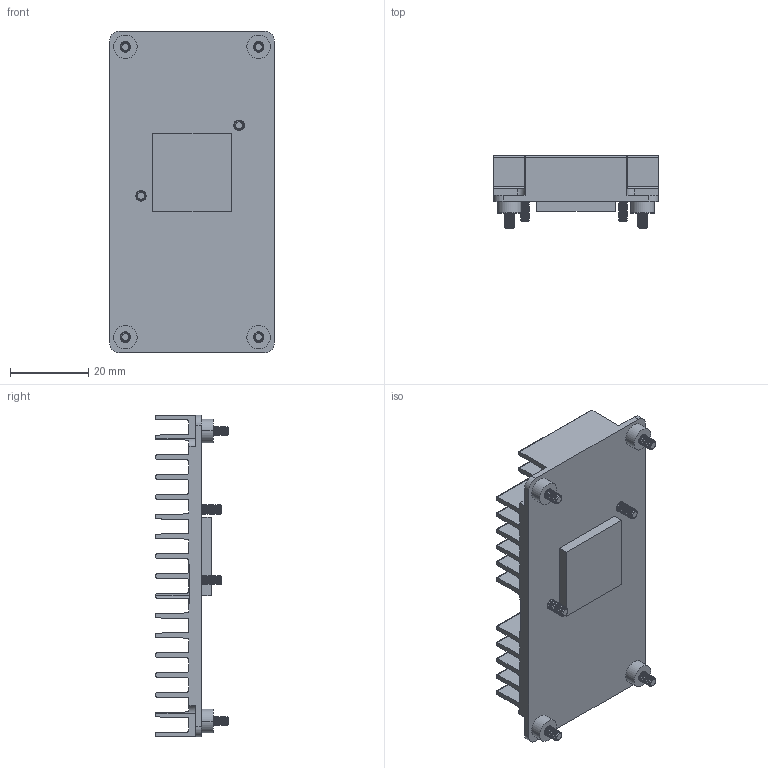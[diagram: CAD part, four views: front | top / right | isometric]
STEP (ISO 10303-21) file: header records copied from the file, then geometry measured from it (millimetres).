
FILE_DESCRIPTION (( 'STEP AP214' ), '1' );
FILE_NAME ('TDX0882 (B1) - 01-Apr-2025.STEP', '2025-03-31T19:43:30', ( '' ), ( '' ), 'SwSTEP 2.0', 'SolidWorks 2022', '' );
FILE_SCHEMA (( 'AUTOMOTIVE_DESIGN' ));
Length unit declared in the file: millimetre
Products named in the file (4): TDX0882 (B1) - 01-Apr-2025; 92010A018; TM062; TDX0881
Assembly tree (8 placements, depth 2):
  TDX0882 (B1) - 01-Apr-2025
    TDX0881
    92010A018  x6
    TM062
Bounding box: 42 x 18.6 x 82 mm (x, y, z)
Volume: 18385.4 mm3; surface area: 19746.3 mm2
Topology: 8 solids, 8 shells, 588 faces, 1674 edges, 1112 vertices
Faces by surface type: cylinder 320, plane 214, cone 36, bspline 18
Entity records: 11016 total; most frequent: CARTESIAN_POINT 3786, ORIENTED_EDGE 1548, DIRECTION 1456, EDGE_CURVE 774, VERTEX_POINT 512, AXIS2_PLACEMENT_3D 502, LINE 452, VECTOR 452
